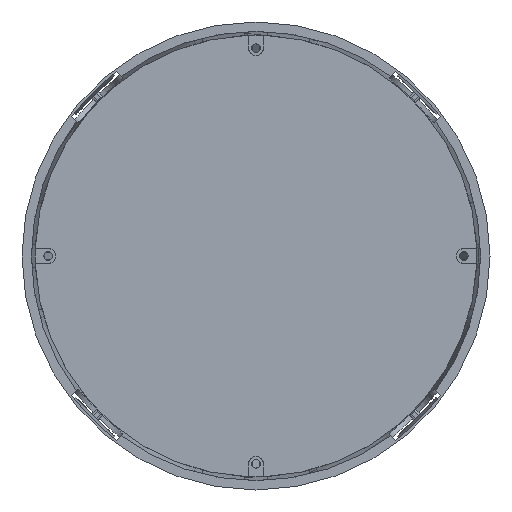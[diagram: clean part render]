
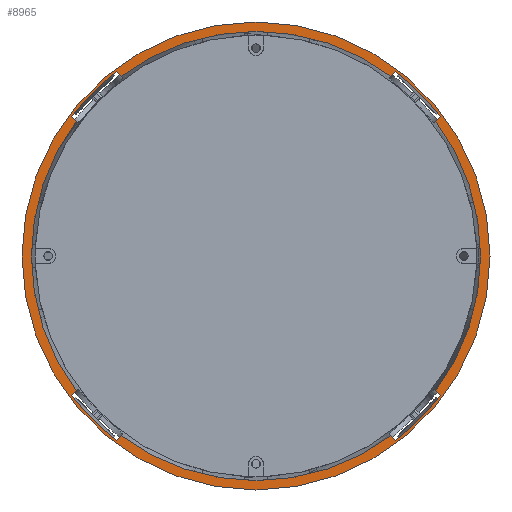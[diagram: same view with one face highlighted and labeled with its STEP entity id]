
A CAD part, front view. The second image highlights one B-rep face of the part: STEP entity #8965.
In plain terms, the highlighted planar face has unit normal (0, -1, 0).
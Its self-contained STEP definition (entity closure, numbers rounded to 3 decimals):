
#156 = EDGE_CURVE ( 'NONE', #11201, #8494, #5809, .T. ) ;
#294 = VERTEX_POINT ( 'NONE', #12712 ) ;
#327 = FACE_OUTER_BOUND ( 'NONE', #10516, .T. ) ;
#475 = CARTESIAN_POINT ( 'NONE',  ( 98.513, -193.374, -74.472 ) ) ;
#702 = CARTESIAN_POINT ( 'NONE',  ( -12.021, -193.374, 12.021 ) ) ;
#755 = VERTEX_POINT ( 'NONE', #13407 ) ;
#811 = CIRCLE ( 'NONE', #9684, 123.495 ) ;
#855 = DIRECTION ( 'NONE',  ( 0., 1., 0. ) ) ;
#966 = EDGE_CURVE ( 'NONE', #14338, #13278, #11876, .T. ) ;
#1479 = VECTOR ( 'NONE', #8294, 1000. ) ;
#1622 = VERTEX_POINT ( 'NONE', #11816 ) ;
#1635 = DIRECTION ( 'NONE',  ( -0.707, 0., 0.707 ) ) ;
#1715 = ORIENTED_EDGE ( 'NONE', *, *, #2071, .F. ) ;
#1753 = ORIENTED_EDGE ( 'NONE', *, *, #9900, .T. ) ;
#1905 = CIRCLE ( 'NONE', #2695, 123.495 ) ;
#2071 = EDGE_CURVE ( 'NONE', #9882, #755, #6086, .T. ) ;
#2367 = AXIS2_PLACEMENT_3D ( 'NONE', #8594, #7149, #4930 ) ;
#2472 = CARTESIAN_POINT ( 'NONE',  ( -71.969, -193.374, 96.011 ) ) ;
#2579 = CIRCLE ( 'NONE', #12180, 119.99 ) ;
#2642 = FACE_BOUND ( 'NONE', #5270, .T. ) ;
#2684 = CARTESIAN_POINT ( 'NONE',  ( 71.969, -193.374, 96.011 ) ) ;
#2690 = CIRCLE ( 'NONE', #12540, 125. ) ;
#2695 = AXIS2_PLACEMENT_3D ( 'NONE', #14229, #14148, #5804 ) ;
#2707 = LINE ( 'NONE', #13793, #13529 ) ;
#2848 = DIRECTION ( 'NONE',  ( 0., 1., 0. ) ) ;
#2850 = ORIENTED_EDGE ( 'NONE', *, *, #6562, .T. ) ;
#2955 = VERTEX_POINT ( 'NONE', #2472 ) ;
#2966 = DIRECTION ( 'NONE',  ( 1., 0., 0. ) ) ;
#3025 = LINE ( 'NONE', #12681, #6126 ) ;
#3126 = AXIS2_PLACEMENT_3D ( 'NONE', #7220, #12302, #6272 ) ;
#3263 = VECTOR ( 'NONE', #5836, 1000. ) ;
#3397 = DIRECTION ( 'NONE',  ( 1., 0., 0. ) ) ;
#3403 = CARTESIAN_POINT ( 'NONE',  ( -12.021, -193.374, -12.021 ) ) ;
#3447 = CARTESIAN_POINT ( 'NONE',  ( 74.472, -193.374, 98.513 ) ) ;
#3615 = DIRECTION ( 'NONE',  ( 1., 0., 0. ) ) ;
#4156 = VERTEX_POINT ( 'NONE', #5785 ) ;
#4165 = VERTEX_POINT ( 'NONE', #13919 ) ;
#4380 = CARTESIAN_POINT ( 'NONE',  ( 125., -193.374, 0. ) ) ;
#4422 = CARTESIAN_POINT ( 'NONE',  ( -74.472, -193.374, -98.513 ) ) ;
#4450 = CIRCLE ( 'NONE', #11556, 123.495 ) ;
#4600 = ORIENTED_EDGE ( 'NONE', *, *, #10049, .F. ) ;
#4930 = DIRECTION ( 'NONE',  ( 1., 0., 0. ) ) ;
#4949 = EDGE_CURVE ( 'NONE', #11201, #4156, #4450, .T. ) ;
#5049 = LINE ( 'NONE', #12588, #7420 ) ;
#5220 = VECTOR ( 'NONE', #1635, 1000. ) ;
#5270 = EDGE_LOOP ( 'NONE', ( #8264, #2850, #1715, #8326, #7718, #1753, #4600, #8213, #5289, #12349, #7832, #8380, #7647, #11843, #5890, #5654 ) ) ;
#5289 = ORIENTED_EDGE ( 'NONE', *, *, #10011, .F. ) ;
#5392 = AXIS2_PLACEMENT_3D ( 'NONE', #8295, #12098, #3615 ) ;
#5452 = VERTEX_POINT ( 'NONE', #7544 ) ;
#5654 = ORIENTED_EDGE ( 'NONE', *, *, #9702, .T. ) ;
#5785 = CARTESIAN_POINT ( 'NONE',  ( 98.513, -193.374, 74.472 ) ) ;
#5804 = DIRECTION ( 'NONE',  ( 1., 0., 0. ) ) ;
#5809 = LINE ( 'NONE', #702, #1479 ) ;
#5836 = DIRECTION ( 'NONE',  ( 0.707, 0., -0.707 ) ) ;
#5890 = ORIENTED_EDGE ( 'NONE', *, *, #6745, .F. ) ;
#5932 = LINE ( 'NONE', #11807, #13735 ) ;
#6086 = LINE ( 'NONE', #7356, #6993 ) ;
#6126 = VECTOR ( 'NONE', #11486, 1000. ) ;
#6262 = CARTESIAN_POINT ( 'NONE',  ( -96.011, -193.374, -71.969 ) ) ;
#6272 = DIRECTION ( 'NONE',  ( 1., 0., 0. ) ) ;
#6519 = DIRECTION ( 'NONE',  ( 1., 0., 0. ) ) ;
#6562 = EDGE_CURVE ( 'NONE', #14338, #755, #2579, .T. ) ;
#6724 = CARTESIAN_POINT ( 'NONE',  ( 96.011, -193.374, -71.969 ) ) ;
#6745 = EDGE_CURVE ( 'NONE', #10735, #9874, #14867, .T. ) ;
#6962 = DIRECTION ( 'NONE',  ( 0., -1., 0. ) ) ;
#6993 = VECTOR ( 'NONE', #13154, 1000. ) ;
#6997 = DIRECTION ( 'NONE',  ( 1., 0., 0. ) ) ;
#7096 = VERTEX_POINT ( 'NONE', #6262 ) ;
#7149 = DIRECTION ( 'NONE',  ( 0., 1., 0. ) ) ;
#7220 = CARTESIAN_POINT ( 'NONE',  ( 0., -193.374, 0. ) ) ;
#7356 = CARTESIAN_POINT ( 'NONE',  ( 12.021, -193.374, -12.021 ) ) ;
#7420 = VECTOR ( 'NONE', #8718, 1000. ) ;
#7464 = EDGE_CURVE ( 'NONE', #7096, #4165, #5932, .T. ) ;
#7544 = CARTESIAN_POINT ( 'NONE',  ( -74.472, -193.374, 98.513 ) ) ;
#7593 = EDGE_CURVE ( 'NONE', #9882, #4165, #1905, .T. ) ;
#7647 = ORIENTED_EDGE ( 'NONE', *, *, #11571, .F. ) ;
#7718 = ORIENTED_EDGE ( 'NONE', *, *, #7464, .F. ) ;
#7786 = DIRECTION ( 'NONE',  ( 0., 1., 0. ) ) ;
#7832 = ORIENTED_EDGE ( 'NONE', *, *, #156, .F. ) ;
#7877 = CARTESIAN_POINT ( 'NONE',  ( 12.021, -193.374, 12.021 ) ) ;
#7965 = EDGE_CURVE ( 'NONE', #11660, #11660, #2690, .T. ) ;
#8213 = ORIENTED_EDGE ( 'NONE', *, *, #13008, .T. ) ;
#8264 = ORIENTED_EDGE ( 'NONE', *, *, #966, .F. ) ;
#8294 = DIRECTION ( 'NONE',  ( -0.707, 0., -0.707 ) ) ;
#8295 = CARTESIAN_POINT ( 'NONE',  ( 0., -193.374, 0. ) ) ;
#8326 = ORIENTED_EDGE ( 'NONE', *, *, #7593, .T. ) ;
#8380 = ORIENTED_EDGE ( 'NONE', *, *, #4949, .T. ) ;
#8494 = VERTEX_POINT ( 'NONE', #2684 ) ;
#8579 = PLANE ( 'NONE',  #3126 ) ;
#8594 = CARTESIAN_POINT ( 'NONE',  ( 0., -193.374, 0. ) ) ;
#8668 = VERTEX_POINT ( 'NONE', #15605 ) ;
#8718 = DIRECTION ( 'NONE',  ( -0.707, 0., 0.707 ) ) ;
#8819 = DIRECTION ( 'NONE',  ( 1., 0., 0. ) ) ;
#8965 = ADVANCED_FACE ( 'NONE', ( #2642, #327 ), #8579, .T. ) ;
#9295 = CARTESIAN_POINT ( 'NONE',  ( 0., -193.374, 0. ) ) ;
#9516 = CARTESIAN_POINT ( 'NONE',  ( 71.969, -193.374, -96.011 ) ) ;
#9684 = AXIS2_PLACEMENT_3D ( 'NONE', #13833, #12780, #2966 ) ;
#9702 = EDGE_CURVE ( 'NONE', #10735, #13278, #811, .T. ) ;
#9704 = EDGE_CURVE ( 'NONE', #2955, #8494, #10687, .T. ) ;
#9874 = VERTEX_POINT ( 'NONE', #6724 ) ;
#9882 = VERTEX_POINT ( 'NONE', #4422 ) ;
#9900 = EDGE_CURVE ( 'NONE', #7096, #8668, #15000, .T. ) ;
#10011 = EDGE_CURVE ( 'NONE', #2955, #5452, #5049, .T. ) ;
#10049 = EDGE_CURVE ( 'NONE', #294, #8668, #2707, .T. ) ;
#10178 = EDGE_CURVE ( 'NONE', #1622, #9874, #12748, .T. ) ;
#10516 = EDGE_LOOP ( 'NONE', ( #14230 ) ) ;
#10522 = CARTESIAN_POINT ( 'NONE',  ( 0., -193.374, 0. ) ) ;
#10687 = CIRCLE ( 'NONE', #11205, 119.99 ) ;
#10735 = VERTEX_POINT ( 'NONE', #475 ) ;
#10945 = AXIS2_PLACEMENT_3D ( 'NONE', #11869, #855, #3397 ) ;
#11201 = VERTEX_POINT ( 'NONE', #3447 ) ;
#11205 = AXIS2_PLACEMENT_3D ( 'NONE', #12694, #7786, #6519 ) ;
#11486 = DIRECTION ( 'NONE',  ( 0.707, 0., 0.707 ) ) ;
#11556 = AXIS2_PLACEMENT_3D ( 'NONE', #9295, #12876, #6997 ) ;
#11571 = EDGE_CURVE ( 'NONE', #1622, #4156, #3025, .T. ) ;
#11615 = CARTESIAN_POINT ( 'NONE',  ( 0., -193.374, 0. ) ) ;
#11660 = VERTEX_POINT ( 'NONE', #4380 ) ;
#11807 = CARTESIAN_POINT ( 'NONE',  ( -12.021, -193.374, 12.021 ) ) ;
#11816 = CARTESIAN_POINT ( 'NONE',  ( 96.011, -193.374, 71.969 ) ) ;
#11843 = ORIENTED_EDGE ( 'NONE', *, *, #10178, .T. ) ;
#11869 = CARTESIAN_POINT ( 'NONE',  ( 0., -193.374, 0. ) ) ;
#11876 = LINE ( 'NONE', #3403, #3263 ) ;
#12098 = DIRECTION ( 'NONE',  ( 0., 1., 0. ) ) ;
#12133 = CARTESIAN_POINT ( 'NONE',  ( 74.472, -193.374, -98.513 ) ) ;
#12180 = AXIS2_PLACEMENT_3D ( 'NONE', #11615, #2848, #12664 ) ;
#12302 = DIRECTION ( 'NONE',  ( 0., -1., 0. ) ) ;
#12349 = ORIENTED_EDGE ( 'NONE', *, *, #9704, .T. ) ;
#12540 = AXIS2_PLACEMENT_3D ( 'NONE', #10522, #6962, #8819 ) ;
#12588 = CARTESIAN_POINT ( 'NONE',  ( 12.021, -193.374, 12.021 ) ) ;
#12664 = DIRECTION ( 'NONE',  ( 1., 0., 0. ) ) ;
#12681 = CARTESIAN_POINT ( 'NONE',  ( 12.021, -193.374, -12.021 ) ) ;
#12694 = CARTESIAN_POINT ( 'NONE',  ( 0., -193.374, 0. ) ) ;
#12712 = CARTESIAN_POINT ( 'NONE',  ( -98.513, -193.374, 74.472 ) ) ;
#12748 = CIRCLE ( 'NONE', #5392, 119.99 ) ;
#12780 = DIRECTION ( 'NONE',  ( 0., 1., 0. ) ) ;
#12876 = DIRECTION ( 'NONE',  ( 0., 1., 0. ) ) ;
#13008 = EDGE_CURVE ( 'NONE', #294, #5452, #15013, .T. ) ;
#13154 = DIRECTION ( 'NONE',  ( 0.707, 0., 0.707 ) ) ;
#13278 = VERTEX_POINT ( 'NONE', #12133 ) ;
#13407 = CARTESIAN_POINT ( 'NONE',  ( -71.969, -193.374, -96.011 ) ) ;
#13529 = VECTOR ( 'NONE', #14723, 1000. ) ;
#13735 = VECTOR ( 'NONE', #14425, 1000. ) ;
#13793 = CARTESIAN_POINT ( 'NONE',  ( -12.021, -193.374, -12.021 ) ) ;
#13833 = CARTESIAN_POINT ( 'NONE',  ( 0., -193.374, 0. ) ) ;
#13919 = CARTESIAN_POINT ( 'NONE',  ( -98.513, -193.374, -74.472 ) ) ;
#14148 = DIRECTION ( 'NONE',  ( 0., 1., 0. ) ) ;
#14229 = CARTESIAN_POINT ( 'NONE',  ( 0., -193.374, 0. ) ) ;
#14230 = ORIENTED_EDGE ( 'NONE', *, *, #7965, .T. ) ;
#14338 = VERTEX_POINT ( 'NONE', #9516 ) ;
#14425 = DIRECTION ( 'NONE',  ( -0.707, 0., -0.707 ) ) ;
#14723 = DIRECTION ( 'NONE',  ( 0.707, 0., -0.707 ) ) ;
#14867 = LINE ( 'NONE', #7877, #5220 ) ;
#15000 = CIRCLE ( 'NONE', #10945, 119.99 ) ;
#15013 = CIRCLE ( 'NONE', #2367, 123.495 ) ;
#15605 = CARTESIAN_POINT ( 'NONE',  ( -96.011, -193.374, 71.969 ) ) ;
